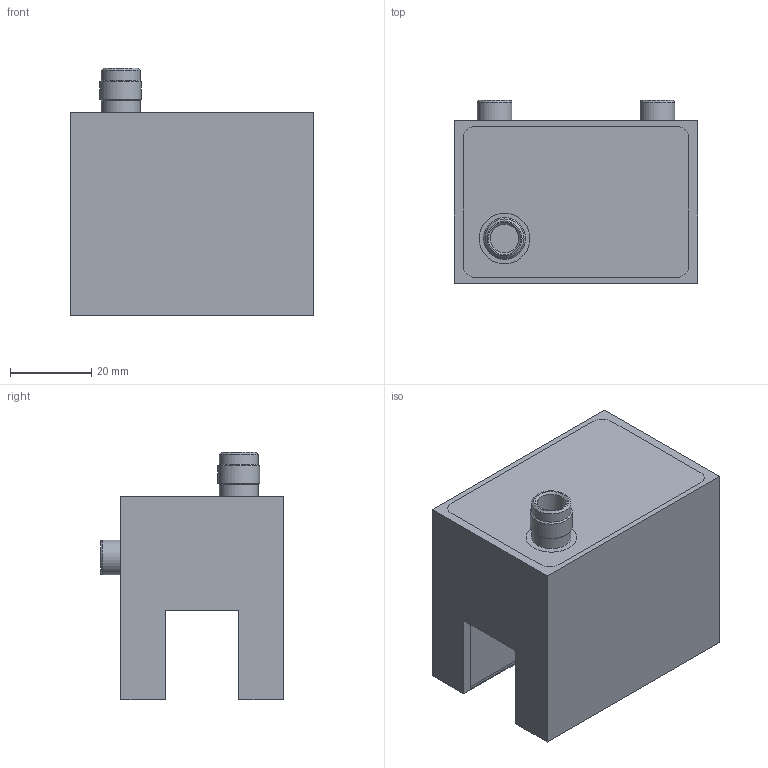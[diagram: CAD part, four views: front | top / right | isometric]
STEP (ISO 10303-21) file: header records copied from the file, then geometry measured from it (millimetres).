
FILE_DESCRIPTION(/* description */ (''),/* implementation_level */ '2;1');
FILE_NAME(/* name */ 'F:\daten\PRODUKTE\TELEMETR\A\Mechanik\CAD\9C\9C\Antenne_9C.stp',/* time_stamp */ '2022-04-22T10:25:00+02:00',/* author */ ('dschaefer'),/* organization */ (''),/* preprocessor_version */ 'ST-DEVELOPER v18.1',/* originating_system */ 'Autodesk Inventor 2021',/* authorisation */ '');
FILE_SCHEMA (('AUTOMOTIVE_DESIGN { 1 0 10303 214 3 1 1 }'));
Length unit declared in the file: millimetre
Products named in the file (12): Antenne_9C; Antennengehaeuse_8c; Verguß; ISO 7046-1 - M2,5 x 3 - 4.8 - H; TNC_J01011H2615; ISO 4032 - M5; D36_3xKerne_geschlitzt; Kern_rund_geschlitzt_Da_36mm; D36_Ummantelung; D36_Ummantelung_Abschluss; Band; ISO 4762  - M5 x 8
Assembly tree (19 placements, depth 3):
  Antenne_9C
    Antennengehaeuse_8c
    Verguß
    ISO 7046-1 - M2,5 x 3 - 4.8 - H
    TNC_J01011H2615
    ISO 4032 - M5  x2
    D36_3xKerne_geschlitzt
      Kern_rund_geschlitzt_Da_36mm  x3
      D36_Ummantelung  x3
      D36_Ummantelung_Abschluss  x2
    Band  x2
    ISO 4762  - M5 x 8  x2
Bounding box: 60 x 45 x 60.9 mm (x, y, z)
Volume: 127320.3 mm3; surface area: 60702.9 mm2
Topology: 18 solids, 18 shells, 273 faces, 713 edges, 482 vertices
Faces by surface type: plane 151, cylinder 71, cone 31, torus 20
Full cylindrical faces by diameter (mm): 1 x1, 2 x1, 2.224 x1, 2.5 x1, 2.7 x1, 4.134 x2, 4.7 x1, 5 x2, 5.3 x2, 6 x1, 7 x1, 8.5 x2, 9.6 x2, 10.3 x1, 12.5 x1
Entity records: 6652 total; most frequent: CARTESIAN_POINT 1459, DIRECTION 1031, ORIENTED_EDGE 988, EDGE_CURVE 494, AXIS2_PLACEMENT_3D 384, VERTEX_POINT 336, LINE 263, VECTOR 263
